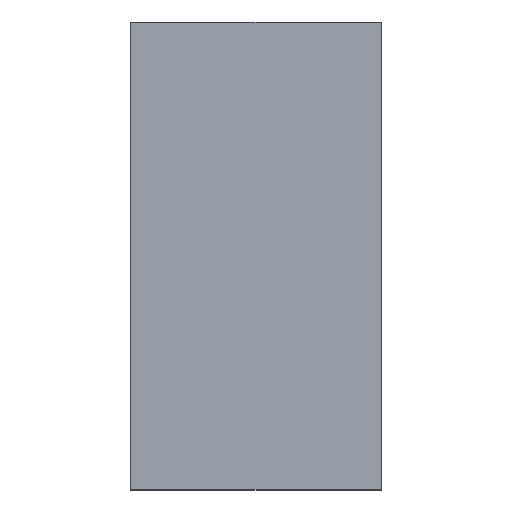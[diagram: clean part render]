
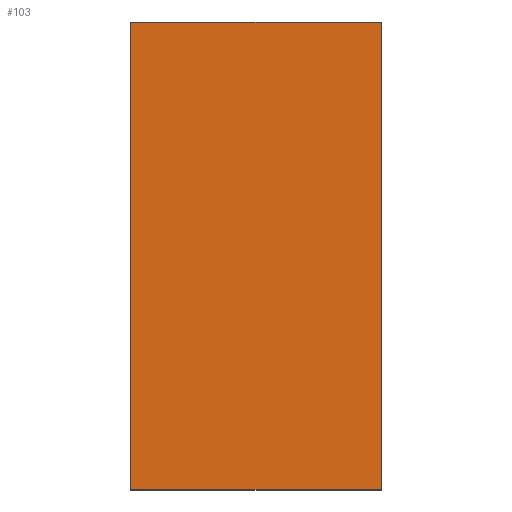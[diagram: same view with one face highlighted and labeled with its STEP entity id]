
A CAD part, top view. The second image highlights one B-rep face of the part: STEP entity #103.
In plain terms, the highlighted planar face has unit normal (0, 0, 1).
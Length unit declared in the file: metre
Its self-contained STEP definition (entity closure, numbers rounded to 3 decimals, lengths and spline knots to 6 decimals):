
#32=ORIENTED_EDGE('',*,*,#47,.T.);
#33=ORIENTED_EDGE('',*,*,#44,.T.);
#34=ORIENTED_EDGE('',*,*,#41,.T.);
#35=ORIENTED_EDGE('',*,*,#38,.T.);
#38=EDGE_CURVE('',#51,#50,#58,.F.);
#41=EDGE_CURVE('',#53,#51,#61,.T.);
#44=EDGE_CURVE('',#55,#53,#64,.T.);
#47=EDGE_CURVE('',#50,#55,#67,.F.);
#50=VERTEX_POINT('',#147);
#51=VERTEX_POINT('',#149);
#53=VERTEX_POINT('',#155);
#55=VERTEX_POINT('',#161);
#58=LINE('',#148,#70);
#61=LINE('',#154,#73);
#64=LINE('',#160,#76);
#67=LINE('',#165,#79);
#70=VECTOR('',#121,1.);
#73=VECTOR('',#126,1.);
#76=VECTOR('',#131,1.);
#79=VECTOR('',#136,1.);
#85=EDGE_LOOP('',(#32,#33,#34,#35));
#91=FACE_BOUND('',#85,.T.);
#97=PLANE('',#114);
#103=ADVANCED_FACE('',(#91),#97,.T.);
#114=AXIS2_PLACEMENT_3D('',#167,#139,#140);
#121=DIRECTION('',(0.,1.,0.));
#126=DIRECTION('',(-1.,0.,0.));
#131=DIRECTION('',(0.,1.,0.));
#136=DIRECTION('',(-1.,0.,0.));
#139=DIRECTION('',(0.,0.,1.));
#140=DIRECTION('',(0.,1.,0.));
#147=CARTESIAN_POINT('',(-0.03955,-0.00215,-0.02995));
#148=CARTESIAN_POINT('',(-0.03955,0.,-0.02995));
#149=CARTESIAN_POINT('',(-0.03955,0.00215,-0.02995));
#154=CARTESIAN_POINT('',(-0.0384,0.00215,-0.02995));
#155=CARTESIAN_POINT('',(-0.03725,0.00215,-0.02995));
#160=CARTESIAN_POINT('',(-0.03725,0.,-0.02995));
#161=CARTESIAN_POINT('',(-0.03725,-0.00215,-0.02995));
#165=CARTESIAN_POINT('',(-0.0384,-0.00215,-0.02995));
#167=CARTESIAN_POINT('',(-0.0384,0.,-0.02995));
